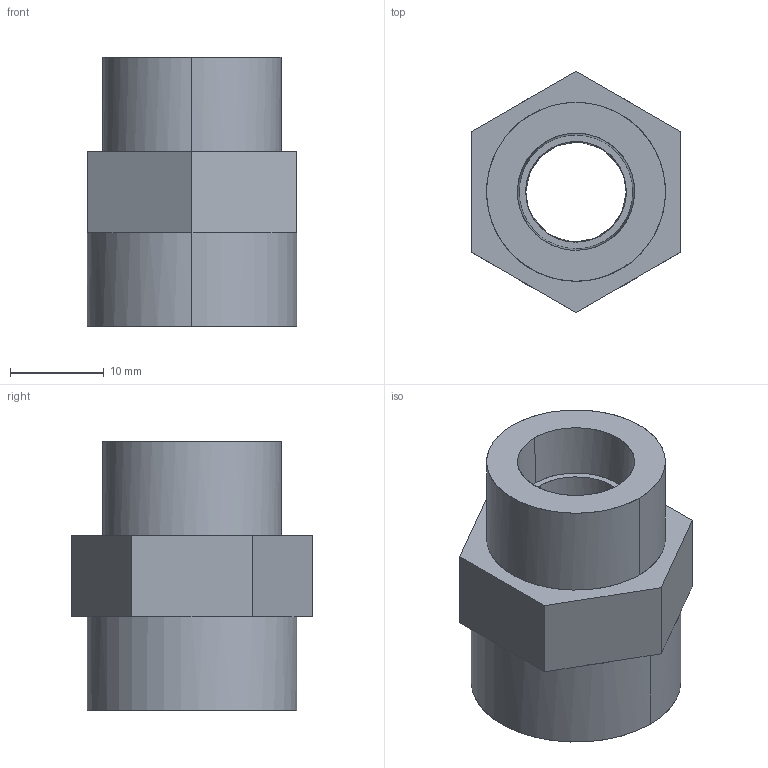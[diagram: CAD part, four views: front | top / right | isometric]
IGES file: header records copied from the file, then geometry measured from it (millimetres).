
Start section:  PTC IGES file: fz-1615.igs
Global section: file name: fz-1615.igs; native system: Pro/ENGINEER by Parametric Technology Corporation; preprocessor: 2010040; author: chad.steele; organization: Unknown; date: 20110824.093929; units: inch
Bounding box: 22.35 x 25.66 x 28.7 mm (x, y, z)
Surface area: 3721.4 mm2 (no closed solid volume)
Topology: 0 solids, 0 shells, 33 faces, 168 edges, 168 vertices
Faces by surface type: bspline 23, revolution 10
